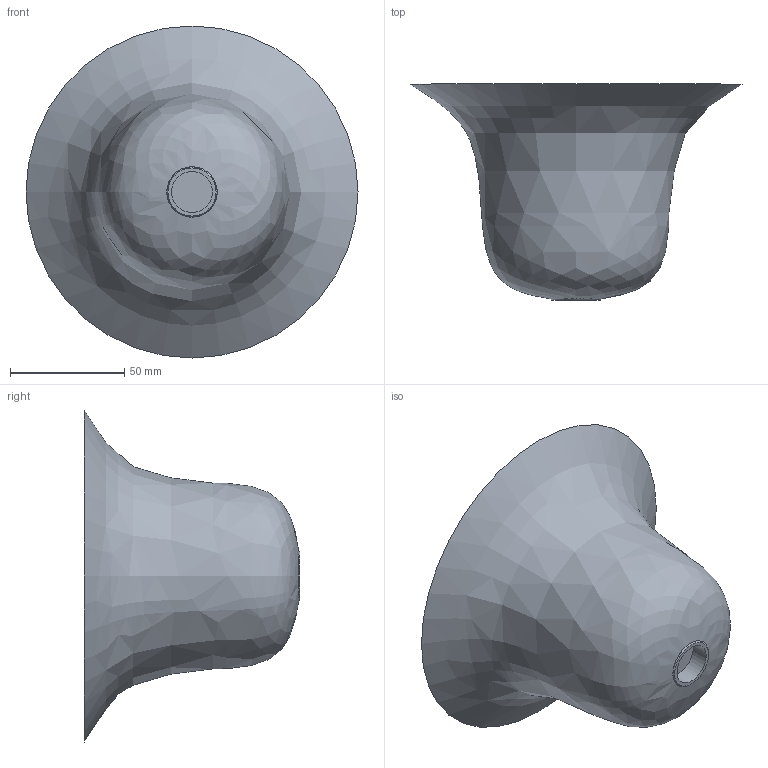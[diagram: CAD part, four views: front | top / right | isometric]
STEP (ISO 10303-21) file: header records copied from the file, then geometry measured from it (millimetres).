
FILE_DESCRIPTION(/* description */ ('ROSONE - SANMARTINO'),/* implementation_level */ '2;1');
FILE_NAME(/* name */ 'C:\Users\Giulia\Desktop\1759 - SANMARTINO.stp',/* time_stamp */ '2015-04-23T17:49:17+02:00',/* author */ ('Giulia'),/* organization */ (''),/* preprocessor_version */ 'ST-DEVELOPER v15.6',/* originating_system */ 'Autodesk Inventor 2015',/* authorisation */ '');
FILE_SCHEMA (('AUTOMOTIVE_DESIGN { 1 0 10303 214 3 1 1 }'));
Length unit declared in the file: millimetre
Products named in the file (1): 1759 - SANMARTINO
Bounding box: 145 x 94.32 x 145 mm (x, y, z)
Volume: 590588.6 mm3; surface area: 50305.6 mm2
Topology: 1 solids, 1 shells, 7 faces, 11 edges, 7 vertices
Faces by surface type: plane 3, cylinder 2, cone 1, bspline 1
Full cylindrical faces by diameter (mm): 18 x1, 22 x1
Entity records: 247 total; most frequent: CARTESIAN_POINT 114, DIRECTION 24, ORIENTED_EDGE 14, AXIS2_PLACEMENT_3D 12, EDGE_LOOP 11, FACE_OUTER_BOUND 7, EDGE_CURVE 7, ADVANCED_FACE 7
